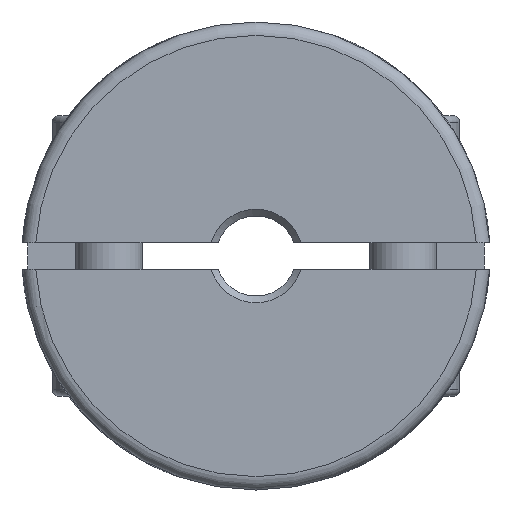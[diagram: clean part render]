
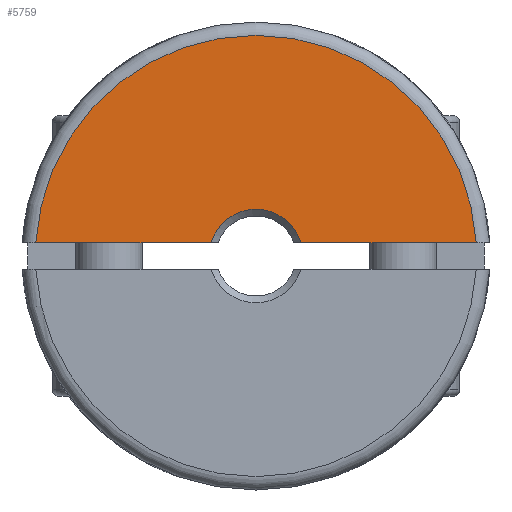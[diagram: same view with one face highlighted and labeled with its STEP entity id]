
A CAD part, left-side view. The second image highlights one B-rep face of the part: STEP entity #5759.
In plain terms, the highlighted planar face has unit normal (-1, 0, 0).
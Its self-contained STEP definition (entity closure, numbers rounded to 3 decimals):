
#38=PLANE('',#6097);
#185=LINE('',#8110,#357);
#189=LINE('',#8132,#361);
#357=VECTOR('',#6692,1000.);
#361=VECTOR('',#6704,1000.);
#894=ORIENTED_EDGE('',*,*,#1759,.F.);
#895=ORIENTED_EDGE('',*,*,#1801,.T.);
#896=ORIENTED_EDGE('',*,*,#1767,.F.);
#897=ORIENTED_EDGE('',*,*,#1803,.F.);
#1759=EDGE_CURVE('',#2240,#2241,#185,.T.);
#1767=EDGE_CURVE('',#2247,#2248,#189,.T.);
#1801=EDGE_CURVE('',#2240,#2248,#2609,.T.);
#1803=EDGE_CURVE('',#2241,#2247,#2611,.T.);
#2240=VERTEX_POINT('',#8109);
#2241=VERTEX_POINT('',#8111);
#2247=VERTEX_POINT('',#8133);
#2248=VERTEX_POINT('',#8134);
#2609=CIRCLE('',#6094,16.5);
#2611=CIRCLE('',#6098,3.5);
#2875=EDGE_LOOP('',(#894,#895,#896,#897));
#3319=FACE_BOUND('',#2875,.T.);
#5759=ADVANCED_FACE('',(#3319),#38,.T.);
#6094=AXIS2_PLACEMENT_3D('',#8313,#6761,#6762);
#6097=AXIS2_PLACEMENT_3D('',#8317,#6767,#6768);
#6098=AXIS2_PLACEMENT_3D('',#8318,#6769,#6770);
#6692=DIRECTION('',(0.,1.,0.));
#6704=DIRECTION('',(0.,1.,0.));
#6761=DIRECTION('',(-1.,0.,0.));
#6762=DIRECTION('',(0.,0.,-1.));
#6767=DIRECTION('',(-1.,0.,0.));
#6768=DIRECTION('',(0.,0.,-1.));
#6769=DIRECTION('',(-1.,0.,0.));
#6770=DIRECTION('',(0.,0.,-1.));
#8109=CARTESIAN_POINT('',(-14.818,-16.47,1.));
#8110=CARTESIAN_POINT('',(-14.818,0.,1.));
#8111=CARTESIAN_POINT('',(-14.818,-3.354,1.));
#8132=CARTESIAN_POINT('',(-14.818,0.,1.));
#8133=CARTESIAN_POINT('',(-14.818,3.354,1.));
#8134=CARTESIAN_POINT('',(-14.818,16.47,1.));
#8313=CARTESIAN_POINT('',(-14.818,0.,0.));
#8317=CARTESIAN_POINT('',(-14.818,0.,3.));
#8318=CARTESIAN_POINT('',(-14.818,0.,0.));
